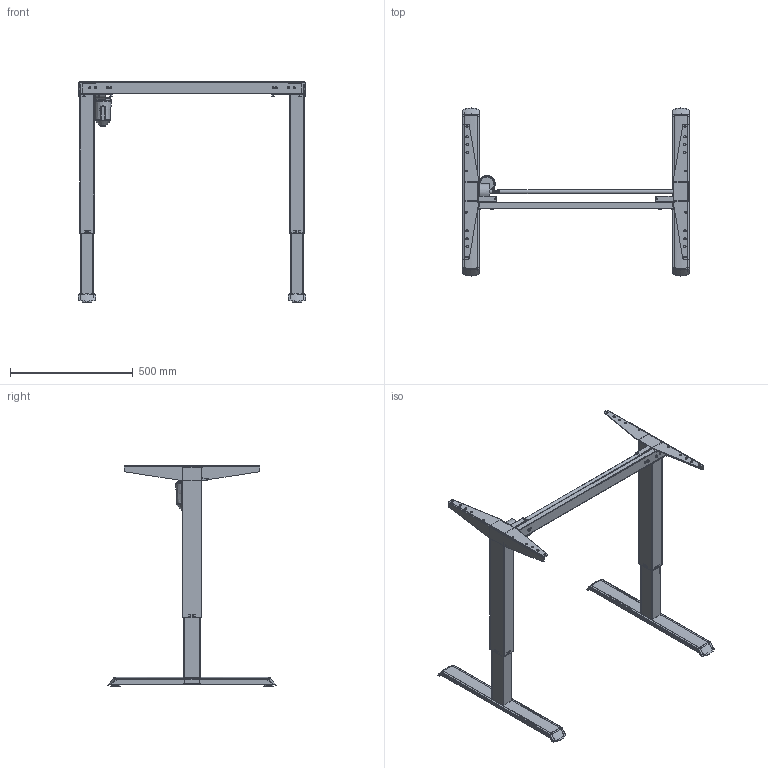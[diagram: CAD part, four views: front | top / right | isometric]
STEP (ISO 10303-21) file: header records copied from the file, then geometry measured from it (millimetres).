
FILE_DESCRIPTION (( 'STEP AP203' ), '1' );
FILE_NAME ('Tech-draw_501-33_XX092.STEP', '2019-09-25T10:14:22', ( '' ), ( '' ), 'SwSTEP 2.0', 'SolidWorks 2018', '' );
FILE_SCHEMA (( 'CONFIG_CONTROL_DESIGN' ));
Length unit declared in the file: millimetre
Products named in the file (27): 149070_501-33 XS092; 140860_silver1; 140850_silver1; 140910_silver; 140930_silver; 324520_silver; 140920_silver; 345630_shell view; Tech-draw_501-33_XX092; 332570; 345610_shell view; 352600; 340760; 340560; 344430_silver; 144260_92; 340540_shell view; 345620_shell view; 345600; 348720_shell view; 347910_92; 341800_silver; 351320; 347920_92; 140950_silver1; 341220; 344820_shell view
Assembly tree (44 placements, depth 6):
  Tech-draw_501-33_XX092
    149070_501-33 XS092
      347910_92
      144260_92
        347920_92
        340560
        341220
      140920_silver
        140860_silver1
          345610_shell view
          344820_shell view
          348720_shell view
        140930_silver
          140950_silver1
            345620_shell view
            345630_shell view
            351320
        324520_silver  x2
        341800_silver  x4
        344430_silver
        352600
      140910_silver
        140850_silver1
          345600
          344820_shell view
          340540_shell view
        140930_silver
          140950_silver1
            345620_shell view
            345630_shell view
            351320
        324520_silver  x2
        341800_silver  x4
      340760  x4
      332570  x4
Bounding box: 926 x 683.9 x 898.46 mm (x, y, z)
Volume: 2272916.9 mm3; surface area: 2419294.6 mm2
Topology: 38 solids, 38 shells, 2758 faces, 7051 edges, 4399 vertices
Faces by surface type: plane 1435, cylinder 935, bspline 256, cone 69, torus 63
Full cylindrical faces by diameter (mm): 2.8 x4, 3 x2, 4.6 x4, 5 x4, 6 x10, 7 x8, 7.4 x4, 7.6 x4, 8 x12, 10 x8, 11.9 x2, 12 x1, 13 x2, 15 x4, 16 x2, 18 x1, 20 x2, 24 x1, 37.6 x8, 60 x1
Entity records: 72523 total; most frequent: CARTESIAN_POINT 31924, ORIENTED_EDGE 8058, DIRECTION 7389, EDGE_CURVE 4029, AXIS2_PLACEMENT_3D 2717, VERTEX_POINT 2607, VECTOR 1955, LINE 1955
